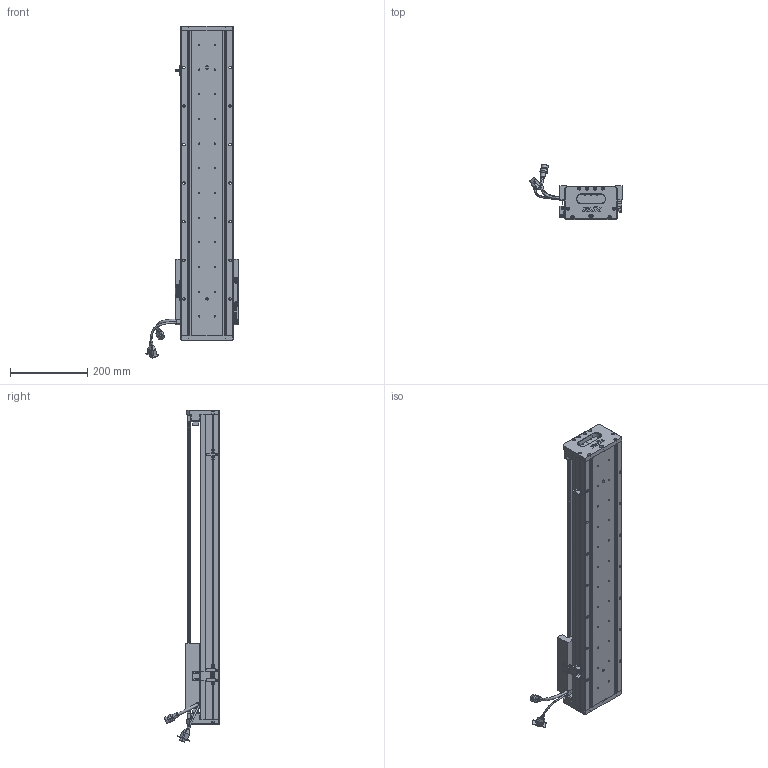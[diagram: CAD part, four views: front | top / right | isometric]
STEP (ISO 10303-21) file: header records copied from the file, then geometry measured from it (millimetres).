
FILE_DESCRIPTION (( 'STEP AP203' ), '1' );
FILE_NAME ('Z2-RY140D-1-L500-B-K.SLDASM_0550.step', '2021-05-17T07:45:02', ( '盈信电脑' ), ( '东莞市道滘镇水果街19号' ), 'SwSTEP 2.0', 'SolidWorks 2016', '' );
FILE_SCHEMA (( 'CONFIG_CONTROL_DESIGN' ));
Length unit declared in the file: millimetre
Products named in the file (36): Z-RY140詩湍狟揤裔; Z2-RY140圉猾敕臏賑輸(21遴); Z2-RY140D-1-L500-B-K.SLDASM_0550; SCREW-M1.6-3; SCREW-M1.6-1; 080黍杅芛假蚾釱21遴; SCREW-M1.6; SCALE-Part-1; 榋妏寠巭燃_暯_M2_2; Z2-RY140-L500詩湍100mm遵_0550; PSLH080_PSLF2; Z-RY140感应器672光电感应片; SHIELDPLATE; Z-140詩湍傷裔啣; SCALE-Part-2; HARNESS-Part-1; COVER-Part-1; 140蚥薯蝶輸; SCREW-M1.6-2; SCREW-M1.7; HOLDER0; HARNESS-Part-2; Z2-RY140-L500直线电机模组底座_0550; LABEL; 140-Z-臏賑輸盄裔(21遴); 覜茼ん672; HARNESS; SCREW-M1.7-1; LABEL-Part-1; SEAL-Part-1; PBU_SHEET; 140雄赽晤鎢ん堤盄; Z-RY140詩湍奻揤裔; SEAL; COVER; SCALE
Assembly tree (41 placements, depth 4):
  Z2-RY140D-1-L500-B-K.SLDASM_0550
    Z2-RY140-L500直线电机模组底座_0550
    Z-RY140感应器672光电感应片
    Z2-RY140圉猾敕臏賑輸(21遴)
    覜茼ん672  x3
    Z2-RY140-L500詩湍100mm遵_0550
    PSLH080_PSLF2
      SCALE
        SCALE-Part-1
        SCALE-Part-2
      HARNESS
        HARNESS-Part-1
        HARNESS-Part-2
      LABEL
        LABEL-Part-1
      COVER
        COVER-Part-1
      SEAL
        SEAL-Part-1
      榋妏寠巭燃_暯_M2_2
      SHIELDPLATE
      SCREW-M1.7
      SCREW-M1.7-1
      PBU_SHEET
      SCREW-M1.6
      SCREW-M1.6-1
      SCREW-M1.6-2
      SCREW-M1.6-3
      HOLDER0
    080黍杅芛假蚾釱21遴
    140-Z-臏賑輸盄裔(21遴)
    Z-140詩湍傷裔啣  x2
    Z-RY140詩湍狟揤裔  x2
    Z-RY140詩湍奻揤裔  x2
    140蚥薯蝶輸  x2
    140雄赽晤鎢ん堤盄
Bounding box: 239.84 x 143.77 x 860.88 mm (x, y, z)
Volume: 3247837.1 mm3; surface area: 850784.4 mm2
Topology: 36 solids, 36 shells, 2760 faces, 7220 edges, 4569 vertices
Faces by surface type: cylinder 1250, plane 1108, cone 270, torus 79, bspline 53
Entity records: 79444 total; most frequent: CARTESIAN_POINT 19681, DIRECTION 11628, ORIENTED_EDGE 11608, EDGE_CURVE 5804, AXIS2_PLACEMENT_3D 4264, VERTEX_POINT 3737, VECTOR 3100, LINE 3100
